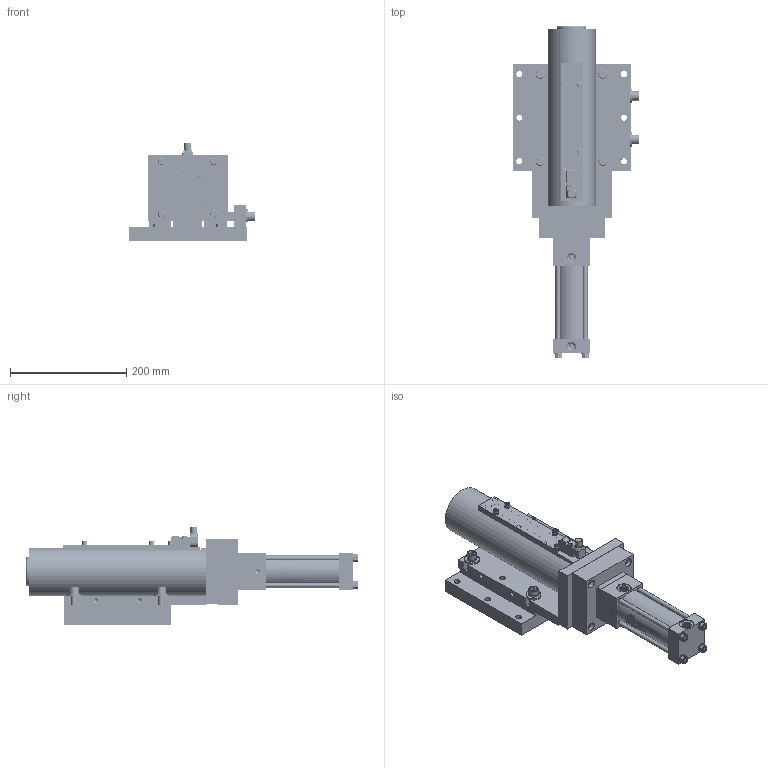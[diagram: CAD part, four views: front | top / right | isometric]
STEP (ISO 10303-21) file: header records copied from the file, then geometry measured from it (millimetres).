
FILE_DESCRIPTION(/* description */ (''),/* implementation_level */ '2;1');
FILE_NAME(/* name */ 'C:\TEMP\HP5 Bull Pins\HP5-H1M4VE000.stp',/* time_stamp */ '2016-01-20T07:13:03-05:00',/* author */ ('klabrecque'),/* organization */ (''),/* preprocessor_version */ 'ST-DEVELOPER v15.2',/* originating_system */ 'Autodesk Inventor 2014',/* authorisation */ '');
FILE_SCHEMA (('AUTOMOTIVE_DESIGN { 1 0 10303 214 3 1 1 }'));
Products named in the file (33): HP5E01; HP5E04; HP5E05; M10X1.5-50 SHCS; HP5E02; H4-M-B2.0F-3.82S1.00F4S11; HP5E06; NL8; 0.313-24X1.500 SHCS; NL10; DSC-D-M10; M6X1-20 SHCS; NL6; HP5E13; HP5E14; HP5E10; HP5E15; HP5E08; HP5E09; HP5E11; M10X1.5-45 SHCS; 12mmX40 DOWEL; Side Weld; Side Weld mid; Side Weld2; End Weld; M4X0.7-10 SHCS; M5X0.8-10 SHCS; M5X0.8-25 SHCS; NL5; WORLD-SWITCH-BODY_PF; 6950160; HP5-H1M4VE000
Bounding box: 218.1 x 571.19 x 169.27 mm (x, y, z)
Volume: 4360647 mm3; surface area: 958015.7 mm2
Topology: 185 solids, 185 shells, 4193 faces, 9769 edges, 6152 vertices
Faces by surface type: plane 1674, cylinder 1313, cone 656, bspline 540, sphere 6, torus 4
Full cylindrical faces by diameter (mm): 0.381 x3, 2 x2, 2.381 x3, 3.242 x8, 3.572 x3, 4 x7, 4.134 x14, 4.5 x6, 4.763 x3, 4.917 x4, 5 x5, 5.3 x1, 5.4 x4, 5.5 x4, 6 x2, 6.35 x2, 6.5 x2, 6.647 x1, 6.782 x8, 6.792 x230, 7 x6, 7.544 x1, 7.938 x237, 8 x6, 8.376 x8, 8.5 x9, 8.7 x4, 9 x4, 10 x13, 10.1 x6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
Entity records: 163975 total; most frequent: CARTESIAN_POINT 81638, DIRECTION 16013, ORIENTED_EDGE 15466, EDGE_CURVE 7733, AXIS2_PLACEMENT_3D 6391, VERTEX_POINT 5653, EDGE_LOOP 5640, ADVANCED_FACE 3870
